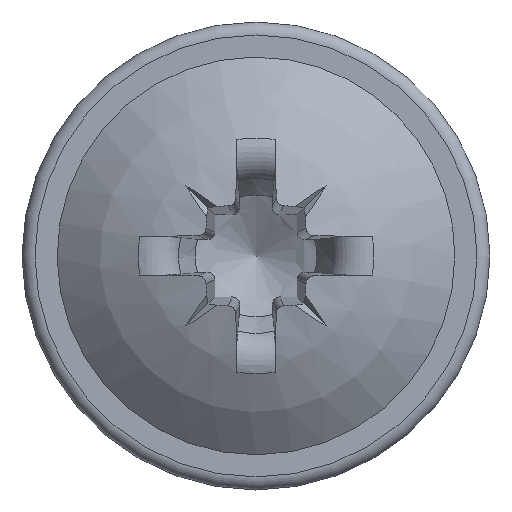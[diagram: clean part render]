
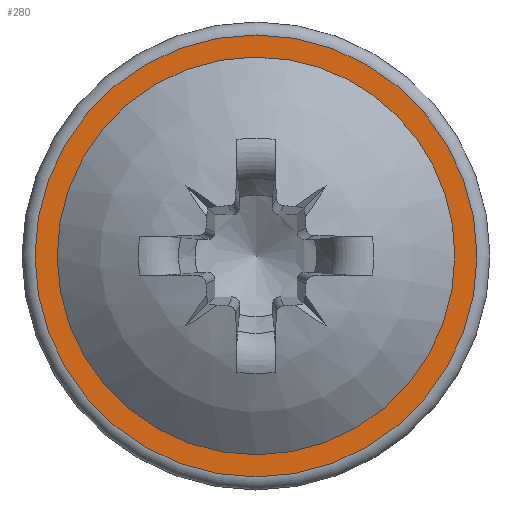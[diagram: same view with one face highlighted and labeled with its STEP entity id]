
A CAD part, top view. The second image highlights one B-rep face of the part: STEP entity #280.
In plain terms, the highlighted planar face has unit normal (0, 0, 1).
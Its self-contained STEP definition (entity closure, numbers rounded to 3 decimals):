
#76=PLANE('',#1577);
#254=FACE_BOUND('',#472,.T.);
#255=FACE_BOUND('',#473,.T.);
#280=ADVANCED_FACE('',(#254,#255),#76,.F.);
#472=EDGE_LOOP('',(#690));
#473=EDGE_LOOP('',(#691));
#564=CIRCLE('',#1535,3.825);
#599=CIRCLE('',#1576,4.25);
#690=ORIENTED_EDGE('',*,*,#1273,.T.);
#691=ORIENTED_EDGE('',*,*,#1222,.F.);
#1078=VERTEX_POINT('',#2753);
#1127=VERTEX_POINT('',#3063);
#1222=EDGE_CURVE('',#1078,#1078,#564,.T.);
#1273=EDGE_CURVE('',#1127,#1127,#599,.T.);
#1535=AXIS2_PLACEMENT_3D('',#2752,#1646,#1647);
#1576=AXIS2_PLACEMENT_3D('',#3062,#1729,#1730);
#1577=AXIS2_PLACEMENT_3D('',#3064,#1731,#1732);
#1646=DIRECTION('',(0.,0.,1.));
#1647=DIRECTION('',(1.,0.,0.));
#1729=DIRECTION('',(0.,0.,1.));
#1730=DIRECTION('',(-1.,0.,0.));
#1731=DIRECTION('',(0.,0.,-1.));
#1732=DIRECTION('',(-1.,0.,0.));
#2752=CARTESIAN_POINT('',(0.,0.,1.));
#2753=CARTESIAN_POINT('',(3.825,0.,1.));
#3062=CARTESIAN_POINT('',(0.,0.,1.));
#3063=CARTESIAN_POINT('',(-4.25,0.,1.));
#3064=CARTESIAN_POINT('',(0.,4.5,1.));
